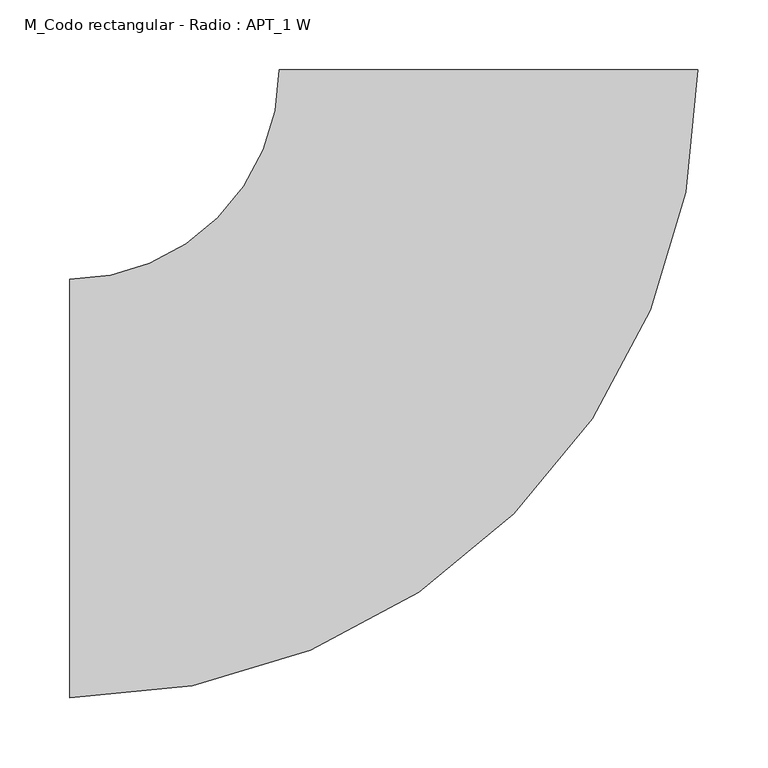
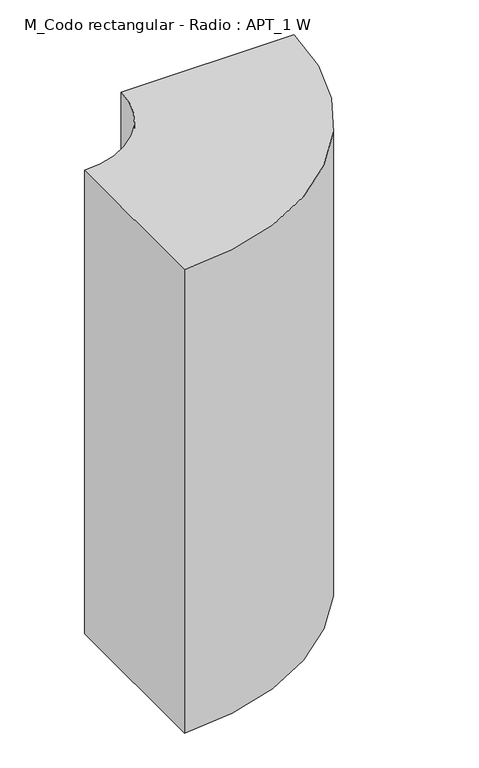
"""IFC4 building model written with IfcOpenShell, lengths in millimetres: duct fitting geometry, M_Codo rectangular - Radio : APT_1 W."""

from ifc_helpers import new_model, si_unit, point, frame, frame_2d, origin, place, context, project, spatial, polyline, circle_curve, trimmed, segment, composite_curve, outline, extrude, source, transform, mapped, element, save


def m_codo_rectangular_radio_apt_1_w_8277ee04(model_context):
    return source(origin(), model_context, "Body", "SweptSolid", [
        extrude(outline(composite_curve([segment(trimmed(circle_curve(frame_2d((-300.0, 300.0)), 450.0), [point((150.0, 300.0))], [point((-300.0, -150.0))], False, "CARTESIAN"), True, "CONTINUOUS"), segment(polyline([(-300.0, -150.0), (-300.0, 150.0)]), True, "CONTINUOUS"), segment(trimmed(circle_curve(frame_2d((-300.0, 300.0)), 150.0), [point((-300.0, 150.0))], [point((-150.0, 300.0))], True, "CARTESIAN"), True, "CONTINUOUS"), segment(polyline([(-150.0, 300.0), (150.0, 300.0)]), True, "CONTINUOUS")], self_intersect=False)), frame((0.0, 0.0, -425.0), z_axis=(0.0, 0.0, 1.0), x_axis=(1.0, 0.0, 0.0)), (0.0, 0.0, 1.0), 850.0),
    ])


if __name__ == "__main__":
    model = new_model("IFC4")
    model_context = context("Model", 3, world=origin())
    ifc_project = project(units=[si_unit("LENGTHUNIT", "METRE", prefix="MILLI")], contexts=[model_context])
    site = spatial("IfcSite", under=ifc_project)
    building = spatial("IfcBuilding", under=site)
    placement = place(None, origin())
    m_codo_rectangular_radio_apt_1_w_shape = m_codo_rectangular_radio_apt_1_w_8277ee04(model_context)
    element("IfcDuctFitting", 1, ObjectType="M_Codo rectangular - Radio : APT_1 W", at=placement, inside=building, context=model_context, shape_type="MappedRepresentation", body=[
        mapped(m_codo_rectangular_radio_apt_1_w_shape, transform((0.0, 0.0, 0.0), x_axis=(1.0, 0.0, 0.0), y_axis=(0.0, 1.0, 0.0), z_axis=(0.0, 0.0, 1.0))),
    ])
    save(model, "model.ifc")
